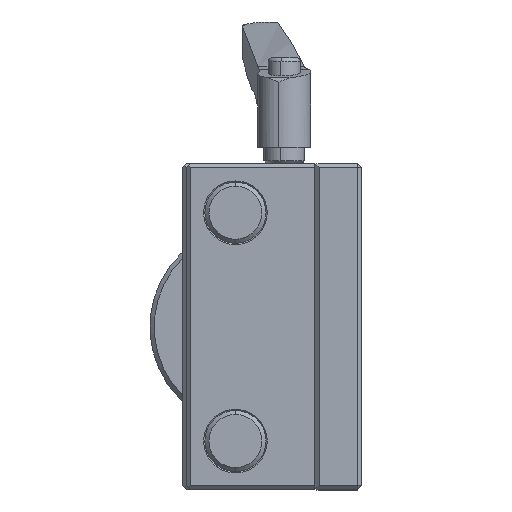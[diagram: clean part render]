
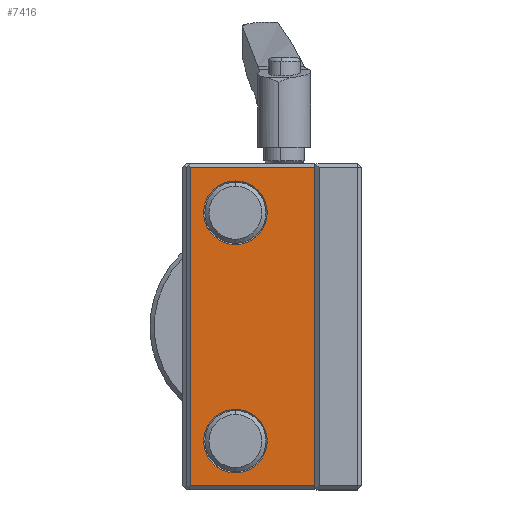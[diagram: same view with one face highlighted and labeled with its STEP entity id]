
A CAD part, left-side view. The second image highlights one B-rep face of the part: STEP entity #7416.
In plain terms, the highlighted planar face has unit normal (-1, 0, 0).
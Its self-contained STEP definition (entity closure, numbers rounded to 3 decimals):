
#20 = LINE ( 'NONE', #1574, #6837 ) ;
#384 = VERTEX_POINT ( 'NONE', #556 ) ;
#476 = DIRECTION ( 'NONE',  ( 0., 0., 1. ) ) ;
#556 = CARTESIAN_POINT ( 'NONE',  ( -110., 31., 20.2 ) ) ;
#1574 = CARTESIAN_POINT ( 'NONE',  ( -110., 11.5, 40. ) ) ;
#1847 = ORIENTED_EDGE ( 'NONE', *, *, #2110, .T. ) ;
#2011 = VERTEX_POINT ( 'NONE', #7748 ) ;
#2110 = EDGE_CURVE ( 'NONE', #5237, #3177, #23185, .T. ) ;
#2381 = VERTEX_POINT ( 'NONE', #2487 ) ;
#2487 = CARTESIAN_POINT ( 'NONE',  ( -110., 31., -20.2 ) ) ;
#2556 = CIRCLE ( 'NONE', #18319, 7.8 ) ;
#2781 = CIRCLE ( 'NONE', #18550, 7.8 ) ;
#3177 = VERTEX_POINT ( 'NONE', #8261 ) ;
#4045 = DIRECTION ( 'NONE',  ( -1., 0., 0. ) ) ;
#4287 = EDGE_CURVE ( 'NONE', #8927, #2381, #19969, .T. ) ;
#4969 = CARTESIAN_POINT ( 'NONE',  ( -110., 42., -39. ) ) ;
#5195 = CARTESIAN_POINT ( 'NONE',  ( -110., 31., 28. ) ) ;
#5237 = VERTEX_POINT ( 'NONE', #16134 ) ;
#5282 = VECTOR ( 'NONE', #11530, 1000. ) ;
#5676 = EDGE_CURVE ( 'NONE', #384, #13511, #2781, .T. ) ;
#5755 = CARTESIAN_POINT ( 'NONE',  ( -110., 31., -35.8 ) ) ;
#5941 = CARTESIAN_POINT ( 'NONE',  ( -110., 31., -28. ) ) ;
#6119 = CARTESIAN_POINT ( 'NONE',  ( -110., 31., -28. ) ) ;
#6163 = ORIENTED_EDGE ( 'NONE', *, *, #8904, .T. ) ;
#6837 = VECTOR ( 'NONE', #16117, 1000. ) ;
#7072 = DIRECTION ( 'NONE',  ( 1., 0., 0. ) ) ;
#7416 = ADVANCED_FACE ( 'NONE', ( #19903, #12859, #20033 ), #21914, .T. ) ;
#7510 = DIRECTION ( 'NONE',  ( 0., 0., 1. ) ) ;
#7657 = DIRECTION ( 'NONE',  ( 1., 0., 0. ) ) ;
#7722 = CARTESIAN_POINT ( 'NONE',  ( -110., 11.5, 39. ) ) ;
#7748 = CARTESIAN_POINT ( 'NONE',  ( -110., 11.5, -39. ) ) ;
#8261 = CARTESIAN_POINT ( 'NONE',  ( -110., 42., -39. ) ) ;
#8514 = DIRECTION ( 'NONE',  ( 0., 1., 0. ) ) ;
#8904 = EDGE_CURVE ( 'NONE', #3177, #2011, #13267, .T. ) ;
#8927 = VERTEX_POINT ( 'NONE', #5755 ) ;
#9446 = DIRECTION ( 'NONE',  ( 0., 0., 1. ) ) ;
#9475 = EDGE_CURVE ( 'NONE', #20280, #2011, #20, .T. ) ;
#9631 = CARTESIAN_POINT ( 'NONE',  ( -110., 11.5, -39. ) ) ;
#10124 = ORIENTED_EDGE ( 'NONE', *, *, #11442, .T. ) ;
#10373 = EDGE_LOOP ( 'NONE', ( #1847, #6163, #11181, #22984 ) ) ;
#10797 = EDGE_LOOP ( 'NONE', ( #10124, #17644 ) ) ;
#11181 = ORIENTED_EDGE ( 'NONE', *, *, #9475, .F. ) ;
#11442 = EDGE_CURVE ( 'NONE', #2381, #8927, #2556, .T. ) ;
#11530 = DIRECTION ( 'NONE',  ( 0., -1., 0. ) ) ;
#11536 = VECTOR ( 'NONE', #22719, 1000. ) ;
#12369 = DIRECTION ( 'NONE',  ( 0., 0., 1. ) ) ;
#12859 = FACE_BOUND ( 'NONE', #10797, .T. ) ;
#13106 = DIRECTION ( 'NONE',  ( 1., 0., 0. ) ) ;
#13267 = LINE ( 'NONE', #9631, #5282 ) ;
#13511 = VERTEX_POINT ( 'NONE', #18801 ) ;
#14162 = ORIENTED_EDGE ( 'NONE', *, *, #5676, .T. ) ;
#15770 = LINE ( 'NONE', #22961, #17440 ) ;
#16117 = DIRECTION ( 'NONE',  ( 0., 0., -1. ) ) ;
#16134 = CARTESIAN_POINT ( 'NONE',  ( -110., 42., 39. ) ) ;
#16376 = ORIENTED_EDGE ( 'NONE', *, *, #22588, .T. ) ;
#16443 = DIRECTION ( 'NONE',  ( 1., 0., 0. ) ) ;
#17440 = VECTOR ( 'NONE', #8514, 1000. ) ;
#17644 = ORIENTED_EDGE ( 'NONE', *, *, #4287, .T. ) ;
#18319 = AXIS2_PLACEMENT_3D ( 'NONE', #5941, #13106, #20279 ) ;
#18550 = AXIS2_PLACEMENT_3D ( 'NONE', #23272, #16443, #7510 ) ;
#18801 = CARTESIAN_POINT ( 'NONE',  ( -110., 31., 35.8 ) ) ;
#19655 = AXIS2_PLACEMENT_3D ( 'NONE', #20146, #4045, #9446 ) ;
#19657 = EDGE_CURVE ( 'NONE', #20280, #5237, #15770, .T. ) ;
#19658 = AXIS2_PLACEMENT_3D ( 'NONE', #5195, #7072, #12369 ) ;
#19903 = FACE_BOUND ( 'NONE', #22330, .T. ) ;
#19969 = CIRCLE ( 'NONE', #22965, 7.8 ) ;
#20033 = FACE_OUTER_BOUND ( 'NONE', #10373, .T. ) ;
#20146 = CARTESIAN_POINT ( 'NONE',  ( -110., 11.5, 40. ) ) ;
#20279 = DIRECTION ( 'NONE',  ( 0., 0., 1. ) ) ;
#20280 = VERTEX_POINT ( 'NONE', #7722 ) ;
#20388 = CIRCLE ( 'NONE', #19658, 7.8 ) ;
#21914 = PLANE ( 'NONE',  #19655 ) ;
#22330 = EDGE_LOOP ( 'NONE', ( #16376, #14162 ) ) ;
#22588 = EDGE_CURVE ( 'NONE', #13511, #384, #20388, .T. ) ;
#22719 = DIRECTION ( 'NONE',  ( 0., 0., -1. ) ) ;
#22961 = CARTESIAN_POINT ( 'NONE',  ( -110., 42., 39. ) ) ;
#22965 = AXIS2_PLACEMENT_3D ( 'NONE', #6119, #7657, #476 ) ;
#22984 = ORIENTED_EDGE ( 'NONE', *, *, #19657, .T. ) ;
#23185 = LINE ( 'NONE', #4969, #11536 ) ;
#23272 = CARTESIAN_POINT ( 'NONE',  ( -110., 31., 28. ) ) ;
